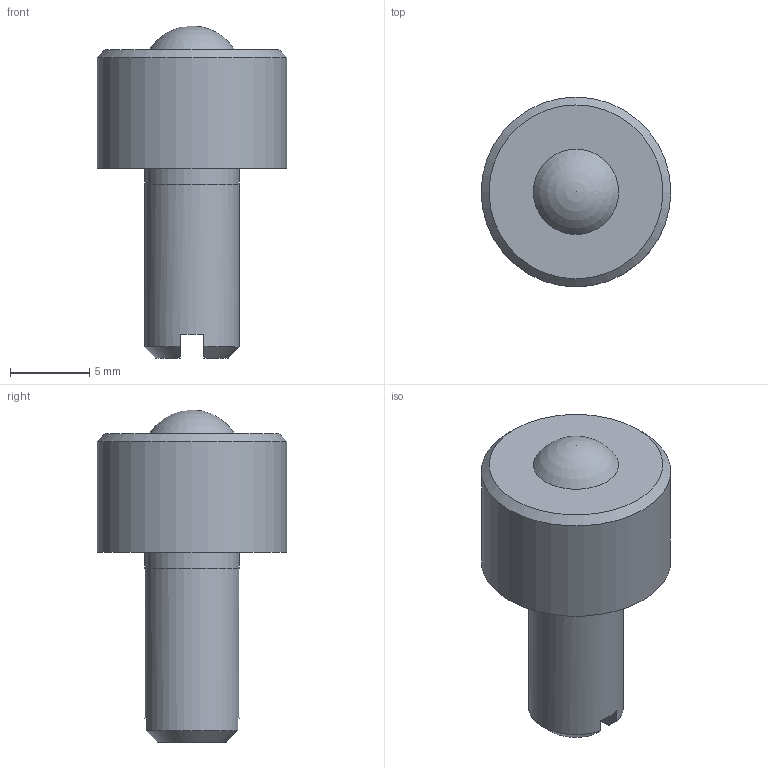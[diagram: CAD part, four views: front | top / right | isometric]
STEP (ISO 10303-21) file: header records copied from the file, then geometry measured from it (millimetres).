
FILE_DESCRIPTION(/* description */ (''),/* implementation_level */ '2;1');
FILE_NAME(/* name */ 'Z:\01-DesignData\標準品図面\90-CP-H・D(by ISB KOREA)\CP-06H.stp',/* time_stamp */ '2018-09-26T13:49:25+09:00',/* author */ ('m-susga'),/* organization */ (''),/* preprocessor_version */ 'ST-DEVELOPER v16.5',/* originating_system */ 'Autodesk Inventor 2017',/* authorisation */ '');
FILE_SCHEMA (('AUTOMOTIVE_DESIGN { 1 0 10303 214 3 1 1 }'));
Length unit declared in the file: millimetre
Products named in the file (1): CP-06H
Bounding box: 12 x 12 x 21 mm (x, y, z)
Volume: 1184.8 mm3; surface area: 735.9 mm2
Topology: 1 solids, 1 shells, 15 faces, 33 edges, 22 vertices
Faces by surface type: plane 8, cylinder 3, cone 3, sphere 1
Full cylindrical faces by diameter (mm): 5.98 x1, 6 x1, 12 x1
Entity records: 394 total; most frequent: CARTESIAN_POINT 68, DIRECTION 66, ORIENTED_EDGE 50, AXIS2_PLACEMENT_3D 29, EDGE_CURVE 25, EDGE_LOOP 22, VERTEX_POINT 19, FACE_OUTER_BOUND 15
